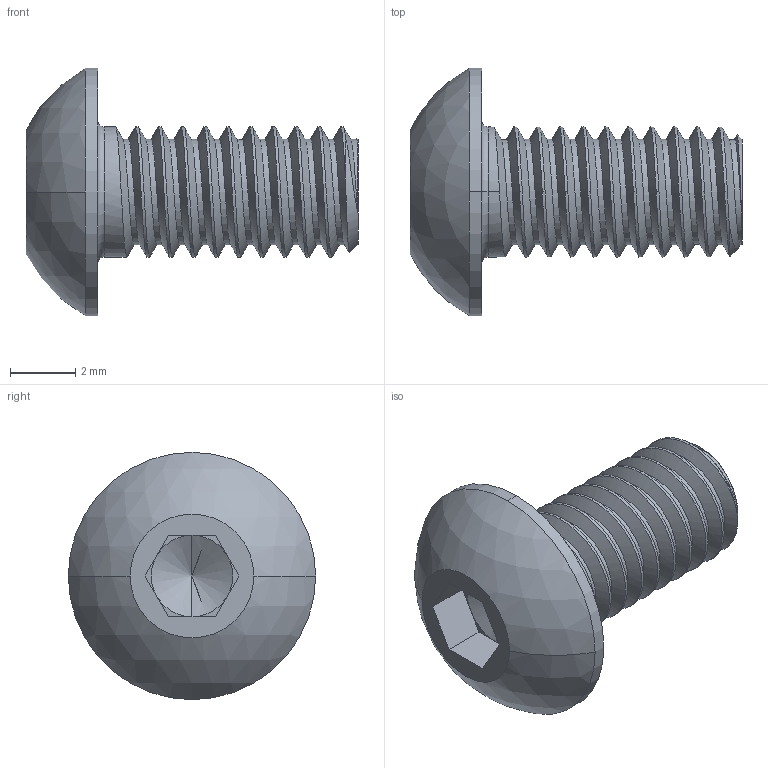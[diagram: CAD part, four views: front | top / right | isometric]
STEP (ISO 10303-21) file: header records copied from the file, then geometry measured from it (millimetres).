
FILE_DESCRIPTION (( 'STEP AP203' ), '1' );
FILE_NAME ('M4x8_ISO7380.STEP', '2025-11-17T07:12:38', ( '' ), ( '' ), 'SwSTEP 2.0', 'SolidWorks 2022', '' );
FILE_SCHEMA (( 'CONFIG_CONTROL_DESIGN' ));
Length unit declared in the file: millimetre
Products named in the file (1): M4x8_ISO7380
Bounding box: 10.2 x 7.6 x 7.6 mm (x, y, z)
Volume: 145.6 mm3; surface area: 265.1 mm2
Topology: 1 solids, 1 shells, 51 faces, 132 edges, 83 vertices
Faces by surface type: cylinder 24, plane 16, cone 4, bspline 3, torus 2, sphere 2
Entity records: 4982 total; most frequent: CARTESIAN_POINT 3795, ORIENTED_EDGE 260, DIRECTION 198, EDGE_CURVE 130, VERTEX_POINT 83, AXIS2_PLACEMENT_3D 73, EDGE_LOOP 53, VECTOR 52
